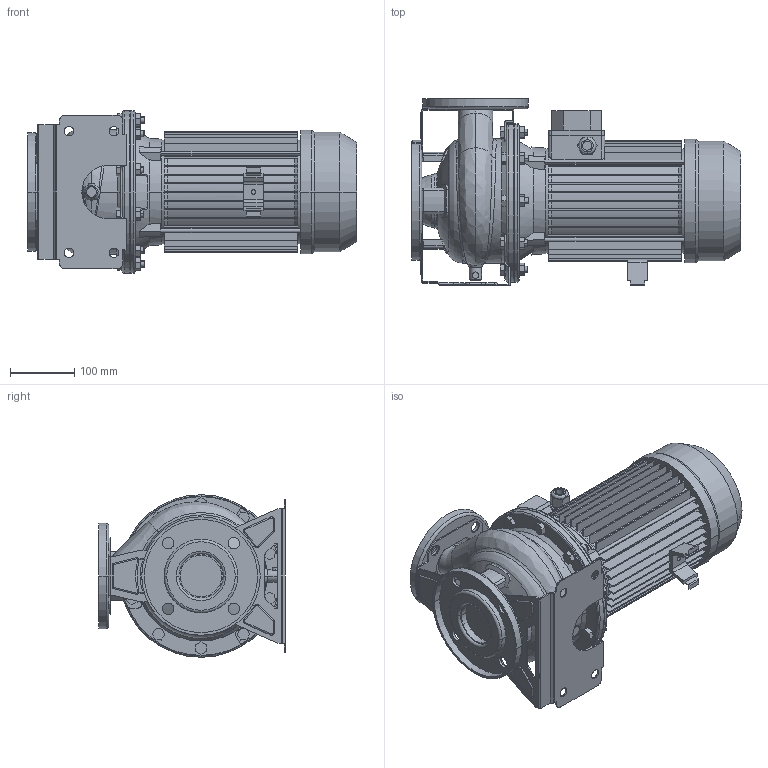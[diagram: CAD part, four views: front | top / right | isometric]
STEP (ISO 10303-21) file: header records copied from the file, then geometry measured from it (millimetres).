
FILE_DESCRIPTION((''),'2;1');
FILE_NAME('3M_50-125_4_IE2-IE3_ASM','2016-03-30T',('rosa'),('"Ebara Pumps Europe +39.444.706811"'),'PRO/ENGINEER BY PARAMETRIC TECHNOLOGY CORPORATION, 2012130','PRO/ENGINEER BY PARAMETRIC TECHNOLOGY CORPORATION, 2012130','');
FILE_SCHEMA(('AUTOMOTIVE_DESIGN { 1 0 10303 214 1 1 1 1 }'));
Length unit declared in the file: millimetre
Products named in the file (11): CORPO_50-125_AF0; ASP_50-125; FLANGIA_DIN_65; MAND_50-125; FLANGIA_DIN_50; BASE_3M_50-125; CORPO_SALDATO_50-125_ASM; SUPPORTO_3M_190_100; MEC_100X170_IE2; SOSTEGNO_72005; 3M_50-125_4_IE2-IE3_ASM
Assembly tree (10 placements, depth 3):
  3M_50-125_4_IE2-IE3_ASM
    CORPO_SALDATO_50-125_ASM
      CORPO_50-125_AF0
      ASP_50-125
      FLANGIA_DIN_65
      MAND_50-125
      FLANGIA_DIN_50
      BASE_3M_50-125
    SUPPORTO_3M_190_100
    MEC_100X170_IE2
    SOSTEGNO_72005
Bounding box: 514 x 292 x 254 mm (x, y, z)
Volume: 9232418.6 mm3; surface area: 1262908.6 mm2
Topology: 12 solids, 12 shells, 1086 faces, 2766 edges, 1765 vertices
Faces by surface type: plane 571, cylinder 320, cone 94, torus 60, bspline 35, sphere 6
Entity records: 47113 total; most frequent: CARTESIAN_POINT 9905, DIRECTION 5672, ORIENTED_EDGE 5532, PRESENTATION_STYLE_ASSIGNMENT 2778, STYLED_ITEM 2778, CURVE_STYLE 2766, EDGE_CURVE 2766, AXIS2_PLACEMENT_3D 2075
